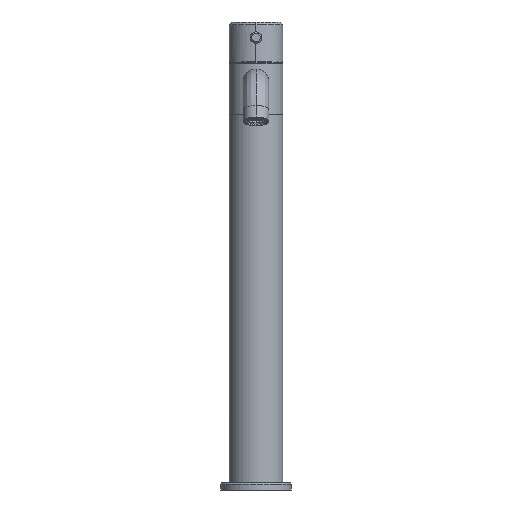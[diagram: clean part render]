
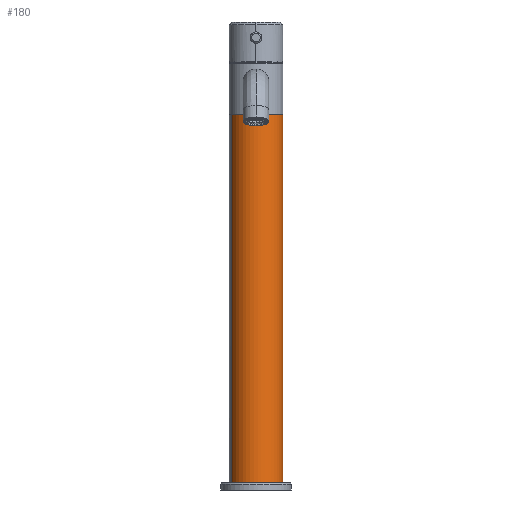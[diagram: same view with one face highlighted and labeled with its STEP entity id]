
A CAD part, front view. The second image highlights one B-rep face of the part: STEP entity #180.
In plain terms, the highlighted cylindrical face has radius 19 mm (diameter 38 mm), a partial arc.
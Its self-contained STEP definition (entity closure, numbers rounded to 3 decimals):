
#180=ADVANCED_FACE('',(#595),#7549,.T.);
#595=FACE_OUTER_BOUND('',#1014,.T.);
#1014=EDGE_LOOP('',(#1477,#1478,#1479,#1480));
#1477=ORIENTED_EDGE('',*,*,#3486,.F.);
#1478=ORIENTED_EDGE('',*,*,#3490,.T.);
#1479=ORIENTED_EDGE('',*,*,#3488,.F.);
#1480=ORIENTED_EDGE('',*,*,#3491,.F.);
#3486=EDGE_CURVE('',#6256,#6257,#4862,.T.);
#3488=EDGE_CURVE('',#6258,#6255,#4863,.T.);
#3490=EDGE_CURVE('',#6256,#6255,#5894,.T.);
#3491=EDGE_CURVE('',#6257,#6258,#5895,.T.);
#4862=B_SPLINE_CURVE_WITH_KNOTS('',1,(#8747,#8748),.UNSPECIFIED.,.F.,.F.,
(2,2),(0.,260.),.UNSPECIFIED.);
#4863=B_SPLINE_CURVE_WITH_KNOTS('',1,(#8754,#8755),.UNSPECIFIED.,.F.,.F.,
(2,2),(0.,260.),.UNSPECIFIED.);
#5894=(
BOUNDED_CURVE()
B_SPLINE_CURVE(2,(#8765,#8766,#8767,#8768,#8769),.UNSPECIFIED.,.F.,.F.)
B_SPLINE_CURVE_WITH_KNOTS((3,2,3),(0.,38.,76.),.UNSPECIFIED.)
CURVE()
GEOMETRIC_REPRESENTATION_ITEM()
RATIONAL_B_SPLINE_CURVE((1.,0.707,1.,0.707,1.))
REPRESENTATION_ITEM('')
);
#5895=(
BOUNDED_CURVE()
B_SPLINE_CURVE(2,(#8770,#8771,#8772,#8773,#8774),.UNSPECIFIED.,.F.,.F.)
B_SPLINE_CURVE_WITH_KNOTS((3,2,3),(-76.,-38.,0.),.UNSPECIFIED.)
CURVE()
GEOMETRIC_REPRESENTATION_ITEM()
RATIONAL_B_SPLINE_CURVE((1.,0.707,1.,0.707,1.))
REPRESENTATION_ITEM('')
);
#6255=VERTEX_POINT('',#8737);
#6256=VERTEX_POINT('',#8738);
#6257=VERTEX_POINT('',#8739);
#6258=VERTEX_POINT('',#8740);
#7549=CYLINDRICAL_SURFACE('',#7780,19.);
#7780=AXIS2_PLACEMENT_3D('',#8736,#8146,$);
#8146=DIRECTION('',(0.,0.,1.));
#8736=CARTESIAN_POINT('',(0.,0.,135.));
#8737=CARTESIAN_POINT('',(17.551,7.278,5.));
#8738=CARTESIAN_POINT('',(-17.551,-7.278,5.));
#8739=CARTESIAN_POINT('',(-17.551,-7.278,265.));
#8740=CARTESIAN_POINT('',(17.551,7.278,265.));
#8747=CARTESIAN_POINT('',(-17.551,-7.278,5.));
#8748=CARTESIAN_POINT('',(-17.551,-7.278,265.));
#8754=CARTESIAN_POINT('',(17.551,7.278,265.));
#8755=CARTESIAN_POINT('',(17.551,7.278,5.));
#8765=CARTESIAN_POINT('',(-17.551,-7.278,5.));
#8766=CARTESIAN_POINT('',(-10.273,-24.829,5.));
#8767=CARTESIAN_POINT('',(7.278,-17.551,5.));
#8768=CARTESIAN_POINT('',(24.829,-10.273,5.));
#8769=CARTESIAN_POINT('',(17.551,7.278,5.));
#8770=CARTESIAN_POINT('',(-17.551,-7.278,265.));
#8771=CARTESIAN_POINT('',(-10.273,-24.829,265.));
#8772=CARTESIAN_POINT('',(7.278,-17.551,265.));
#8773=CARTESIAN_POINT('',(24.829,-10.273,265.));
#8774=CARTESIAN_POINT('',(17.551,7.278,265.));
